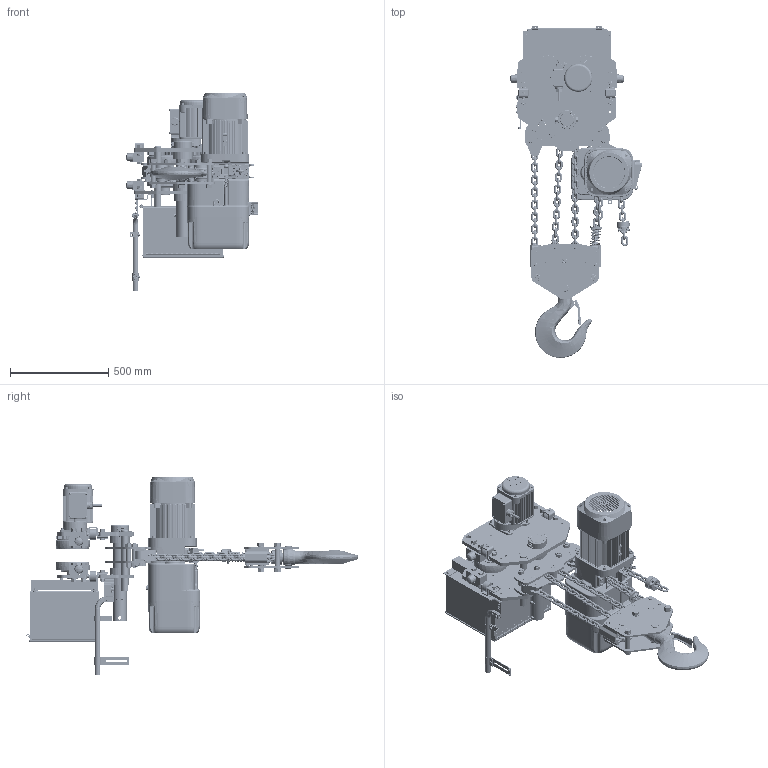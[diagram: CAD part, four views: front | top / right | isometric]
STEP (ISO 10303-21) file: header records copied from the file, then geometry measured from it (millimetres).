
FILE_DESCRIPTION (( 'STEP AP214' ), '1' );
FILE_NAME ('(N)ER2M100LD-LD.STEP', '2026-08-07T14:04:34', ( '' ), ( '' ), 'SwSTEP 2.0', 'SolidWorks 2026', '' );
FILE_SCHEMA (( 'AUTOMOTIVE_DESIGN' ));
Length unit declared in the file: millimetre
Products named in the file (148): MR1DS9492; ER2FS6122; ER2ES9107_ER2ES9107; 9004505_9004505; LCER2025NP; ER1HS90161; 90912134_90912134; MS115075_MS115075; socket head cap screw_am_9091272; ES127005S; MR1DS1491; (N)ER2M100LD-LD; MR1IS9203; ER2FS9101; ER2IS91211; ER2EI2523; MS104075; ER1IL90171; MR1GS9311; MS561010; MS1102075; NER2025SD_For High Cap; 9005205_9005205; ER2FS9103; ER2HS90051; E3S111003; MR1IS5201; E7SE075S90381; single coil rectangular section spring washer_bsi_Rectangular section spring washer BS 4464 - 16 (Type B); 70136-04; J1AP2-4001212.SLDASM; MR1DS9496; 70135-08; 16-6 (MR2); hex cap screw_am_9093329; E6SE075S90531; E6S010075_E6S010075; MS164075; ER2FS9337; MS554010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
Assembly tree (444 placements, depth 5):
  (N)ER2M100LD-LD
    MR2100LD_6" FLANGE
      MR1IS5201
        MR1IS9201
        MR1IS9203  x2
        M6SE100S9113
      MR1IS5202
        MR1IS9202
        MR1IS9203  x2
        M6SE100S9114
      MR1GS1211_Reversed  x2
        MR1GS1211 BODY
        MR1GS1211 ATTACHMENT
      MR1GS1211  x2
        MR1GS1211 BODY
        MR1GS1211 ATTACHMENT
      spring lock washer_2_jis_9012715  x11
      hex cap screw_am_90933116  x4
      hex nut style 1_am_9093439  x12
      MS104075  x4
      MS1101075  x2
        M6SE100S9101
        6309Z Bearing
        J1SR000-00100_9047145
      MS1102075  x2
        M6SE100S9102
        6309Z Bearing
        J1SR000-00100_9047145
      basic external retaining ring_am_PreviewCfg  x4
      J1BG11002828_J1BG11002828  x2
      MR1DS1491
        MR1DS9491
        MR1DS9492
        MR1DS9501
        MR1DS1493
          MR1DS9493
          single coil rectangular section spring washer_bsi_9012711
          M6F554010  x2
          MR1DS9496
          hex nut style 1_am_9093424
          hex cap screw_am_9093329
        MR1DS1481
          MR1DS9481
          E6L614010S
          E6F151003  x2
        single coil rectangular section spring washer_bsi_9012711  x3
        hex cap screw_am_9093329  x3
        hex nut style 1_am_9093424
      6077802
        MR1GS9311
        MR1GS9324
        MR1GS9325
        MS554010  x4
        MR1DS1301
        90912134_90912134  x4
      9012513  x4
      single coil rectangular section spring washer_bsi_Rectangular section spring washer BS 4464 - 16 (Type B)  x4
      9091252_B18.3.1M - 6 x 1.0 x 30 Hex SHCS -- 30CHX  x4
      MR1IS9634  x4
      MS006050  x4
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Bounding box: 673 x 1692.99 x 1012.52 mm (x, y, z)
Volume: 69175529.2 mm3; surface area: 8803396.6 mm2
Topology: 478 solids, 498 shells, 16423 faces, 41359 edges, 25983 vertices
Faces by surface type: plane 5955, cylinder 5181, bspline 1880, torus 1570, cone 1528, sphere 309
Entity records: 425758 total; most frequent: CARTESIAN_POINT 177620, ORIENTED_EDGE 47244, DIRECTION 44709, EDGE_CURVE 23624, AXIS2_PLACEMENT_3D 16848, VERTEX_POINT 15063, LINE 11013, VECTOR 11013
